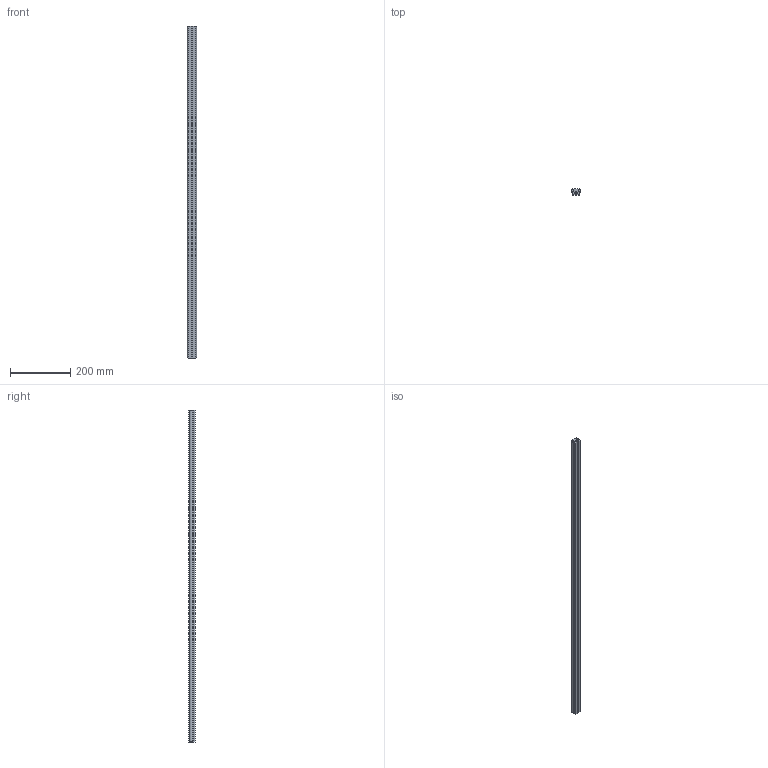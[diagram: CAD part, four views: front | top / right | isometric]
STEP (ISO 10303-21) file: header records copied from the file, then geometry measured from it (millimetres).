
FILE_DESCRIPTION (( 'STEP AP203' ), '1' );
FILE_NAME ('MLF 1_-_MLF 1 1098 mm lang.step', '2005-06-03T08:17:22', ( ' ' ), ( ' ' ), 'SwSTEP 2.0', 'SolidWorks 2004231', '' );
FILE_SCHEMA (( 'CONFIG_CONTROL_DESIGN' ));
Length unit declared in the file: millimetre
Products named in the file (1): MLF 1_-_MLF 1  1098 mm lang
Bounding box: 30 x 20 x 1098 mm (x, y, z)
Volume: 444066.5 mm3; surface area: 193413 mm2
Topology: 1 solids, 1 shells, 72 faces, 222 edges, 144 vertices
Faces by surface type: plane 52, cylinder 20
Entity records: 2543 total; most frequent: ORIENTED_EDGE 444, CARTESIAN_POINT 439, DIRECTION 408, EDGE_CURVE 222, VECTOR 182, LINE 182, VERTEX_POINT 144, AXIS2_PLACEMENT_3D 113
